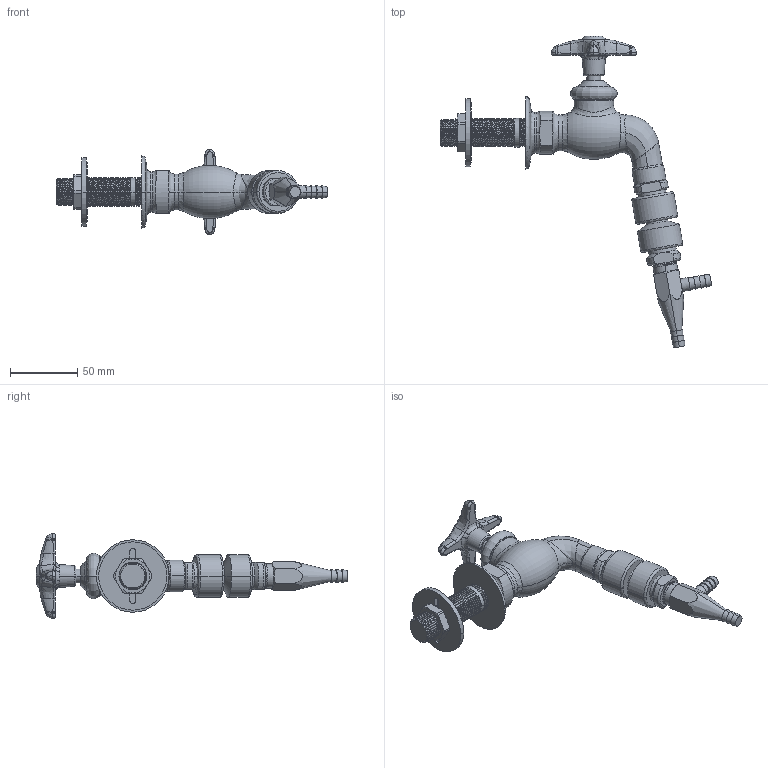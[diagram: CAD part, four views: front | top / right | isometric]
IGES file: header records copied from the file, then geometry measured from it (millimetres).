
Start section:  PTC IGES file: LWV4-A63.igs
Global section: file name: LWV4-A63.igs; native system: Creo Parametric by PTC Inc.; preprocessor: 2014500; author: usch_engrender; organization: Unknown; date: 20150915.131441; units: inch
Bounding box: 202.04 x 232 x 63.41 mm (x, y, z)
Volume: 200494.9 mm3; surface area: 44315.7 mm2
Topology: 1 solids, 4 shells, 468 faces, 1128 edges, 687 vertices
Faces by surface type: bspline 262, revolution 206
